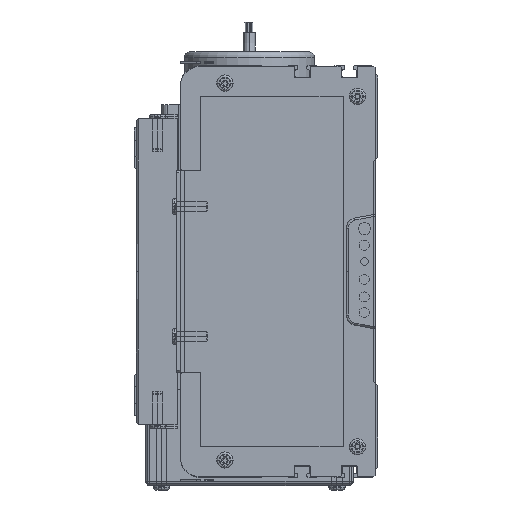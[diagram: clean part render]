
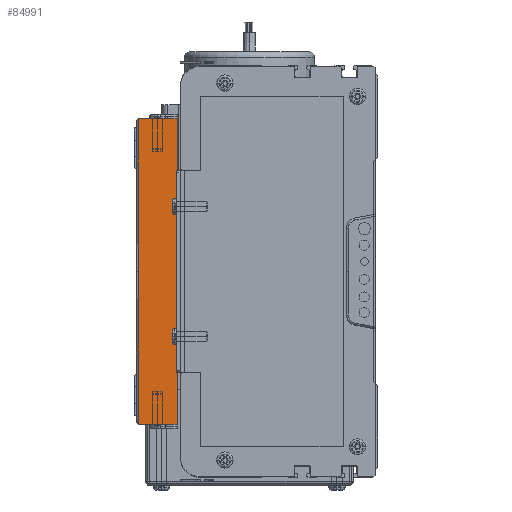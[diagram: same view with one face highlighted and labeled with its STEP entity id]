
A CAD part, left-side view. The second image highlights one B-rep face of the part: STEP entity #84991.
In plain terms, the highlighted planar face has unit normal (-1, 0, 0).
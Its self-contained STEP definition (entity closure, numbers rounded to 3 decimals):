
#15587 = CARTESIAN_POINT ( 'NONE',  ( 0., 20., -75. ) ) ;
#15592 = LINE ( 'NONE', #15587, #15817 ) ;
#15817 = VECTOR ( 'NONE', #16314, 1000. ) ;
#16314 = DIRECTION ( 'NONE',  ( 0., -1., 0. ) ) ;
#16649 = CARTESIAN_POINT ( 'NONE',  ( 0., 19., -75. ) ) ;
#20467 = DIRECTION ( 'NONE',  ( 0., 0., -1. ) ) ;
#20469 = VECTOR ( 'NONE', #20467, 1000. ) ;
#20470 = CARTESIAN_POINT ( 'NONE',  ( 0., 19., 0. ) ) ;
#20482 = FACE_OUTER_BOUND ( 'NONE', #85145, .T. ) ;
#20522 = CARTESIAN_POINT ( 'NONE',  ( 0., 19., 0. ) ) ;
#20526 = DIRECTION ( 'NONE',  ( 1., 0., 0. ) ) ;
#20529 = CARTESIAN_POINT ( 'NONE',  ( 0., 20., 0. ) ) ;
#20636 = AXIS2_PLACEMENT_3D ( 'NONE', #20529, #20526, #20707 ) ;
#20707 = DIRECTION ( 'NONE',  ( 0., 0., -1. ) ) ;
#20727 = LINE ( 'NONE', #20470, #20469 ) ;
#20835 = DIRECTION ( 'NONE',  ( 0., 0., -1. ) ) ;
#20837 = VECTOR ( 'NONE', #20835, 1000. ) ;
#20866 = CARTESIAN_POINT ( 'NONE',  ( 0., 19., 0. ) ) ;
#20869 = LINE ( 'NONE', #20866, #20837 ) ;
#20942 = PLANE ( 'NONE',  #20636 ) ;
#37152 = VECTOR ( 'NONE', #37420, 1000. ) ;
#37363 = LINE ( 'NONE', #37421, #37152 ) ;
#37420 = DIRECTION ( 'NONE',  ( 0., -1., 0. ) ) ;
#37421 = CARTESIAN_POINT ( 'NONE',  ( 0., 20., 75. ) ) ;
#41478 = CARTESIAN_POINT ( 'NONE',  ( 0., 0., 75. ) ) ;
#41786 = DIRECTION ( 'NONE',  ( 0., 0., 1. ) ) ;
#41789 = VECTOR ( 'NONE', #41786, 1000. ) ;
#41817 = CARTESIAN_POINT ( 'NONE',  ( 0., 0., 0. ) ) ;
#41819 = LINE ( 'NONE', #41817, #41789 ) ;
#41900 = CARTESIAN_POINT ( 'NONE',  ( 0., 0., -75. ) ) ;
#43623 = CARTESIAN_POINT ( 'NONE',  ( 0., 19., 75. ) ) ;
#78242 = ORIENTED_EDGE ( 'NONE', *, *, #89656, .T. ) ;
#84491 = VERTEX_POINT ( 'NONE', #16649 ) ;
#84509 = EDGE_CURVE ( 'NONE', #84491, #89663, #15592, .T. ) ;
#84950 = ORIENTED_EDGE ( 'NONE', *, *, #85107, .T. ) ;
#84954 = ORIENTED_EDGE ( 'NONE', *, *, #84509, .T. ) ;
#84985 = VERTEX_POINT ( 'NONE', #20522 ) ;
#84991 = ADVANCED_FACE ( 'NONE', ( #20482 ), #20942, .F. ) ;
#84993 = ORIENTED_EDGE ( 'NONE', *, *, #89793, .F. ) ;
#85107 = EDGE_CURVE ( 'NONE', #84985, #84491, #20869, .T. ) ;
#85140 = EDGE_CURVE ( 'NONE', #90131, #84985, #20727, .T. ) ;
#85141 = ORIENTED_EDGE ( 'NONE', *, *, #85140, .T. ) ;
#85145 = EDGE_LOOP ( 'NONE', ( #84993, #85141, #84950, #84954, #78242 ) ) ;
#89651 = VERTEX_POINT ( 'NONE', #41478 ) ;
#89656 = EDGE_CURVE ( 'NONE', #89663, #89651, #41819, .T. ) ;
#89663 = VERTEX_POINT ( 'NONE', #41900 ) ;
#89793 = EDGE_CURVE ( 'NONE', #90131, #89651, #37363, .T. ) ;
#90131 = VERTEX_POINT ( 'NONE', #43623 ) ;
